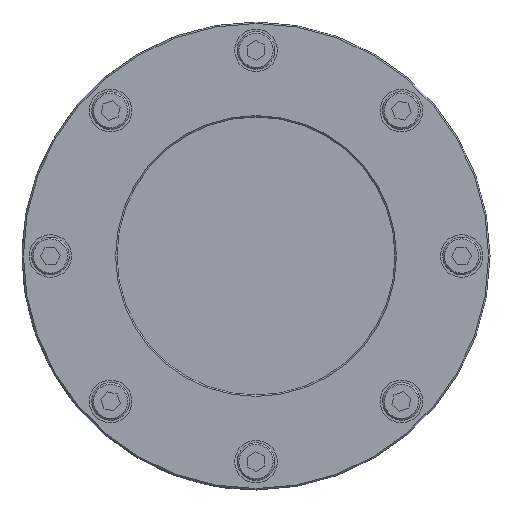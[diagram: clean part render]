
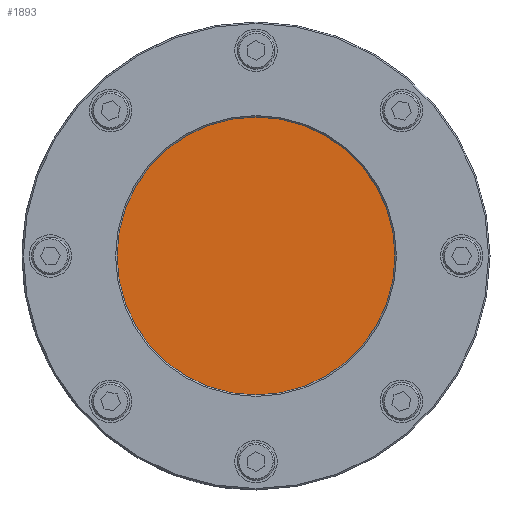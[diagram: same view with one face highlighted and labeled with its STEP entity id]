
A CAD part, front view. The second image highlights one B-rep face of the part: STEP entity #1893.
In plain terms, the highlighted planar face has unit normal (0, -1, 0).
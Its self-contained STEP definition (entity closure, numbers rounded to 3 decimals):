
#201 = PLANE ( 'NONE',  #3634 ) ;
#270 = FACE_OUTER_BOUND ( 'NONE', #2806, .T. ) ;
#425 = CIRCLE ( 'NONE', #3725, 57.3 ) ;
#673 = CARTESIAN_POINT ( 'NONE',  ( 0., 0., 57.3 ) ) ;
#771 = CARTESIAN_POINT ( 'NONE',  ( 0., 0., -57.3 ) ) ;
#815 = DIRECTION ( 'NONE',  ( 0., -1., 0. ) ) ;
#1016 = EDGE_CURVE ( 'NONE', #4015, #1822, #425, .T. ) ;
#1241 = DIRECTION ( 'NONE',  ( 0., 0., 1. ) ) ;
#1295 = CARTESIAN_POINT ( 'NONE',  ( 0., 0., 0. ) ) ;
#1495 = CARTESIAN_POINT ( 'NONE',  ( 0., 0., 0. ) ) ;
#1528 = EDGE_CURVE ( 'NONE', #1822, #4015, #1832, .T. ) ;
#1822 = VERTEX_POINT ( 'NONE', #673 ) ;
#1832 = CIRCLE ( 'NONE', #2818, 57.3 ) ;
#1893 = ADVANCED_FACE ( 'NONE', ( #270 ), #201, .F. ) ;
#2014 = ORIENTED_EDGE ( 'NONE', *, *, #1528, .T. ) ;
#2488 = DIRECTION ( 'NONE',  ( 0., 0., 1. ) ) ;
#2806 = EDGE_LOOP ( 'NONE', ( #2014, #4311 ) ) ;
#2815 = CARTESIAN_POINT ( 'NONE',  ( 0., 0., 0. ) ) ;
#2818 = AXIS2_PLACEMENT_3D ( 'NONE', #2815, #815, #1241 ) ;
#2982 = DIRECTION ( 'NONE',  ( 0., -1., 0. ) ) ;
#3313 = DIRECTION ( 'NONE',  ( 0., 0., 1. ) ) ;
#3634 = AXIS2_PLACEMENT_3D ( 'NONE', #1495, #3854, #2488 ) ;
#3725 = AXIS2_PLACEMENT_3D ( 'NONE', #1295, #2982, #3313 ) ;
#3854 = DIRECTION ( 'NONE',  ( 0., 1., 0. ) ) ;
#4015 = VERTEX_POINT ( 'NONE', #771 ) ;
#4311 = ORIENTED_EDGE ( 'NONE', *, *, #1016, .T. ) ;
